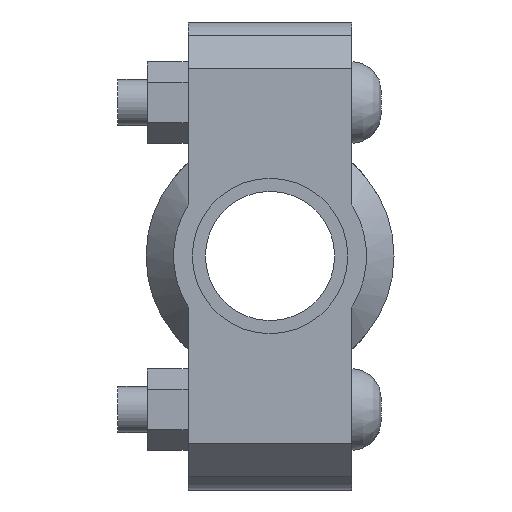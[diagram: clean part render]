
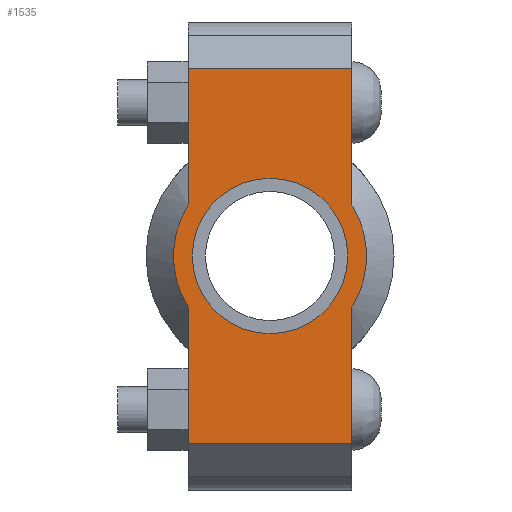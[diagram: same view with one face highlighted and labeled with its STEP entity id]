
A CAD part, left-side view. The second image highlights one B-rep face of the part: STEP entity #1535.
In plain terms, the highlighted planar face has unit normal (-1, 0, 0) as drawn and (0, 0, 1) by its records, which use the part's own axes.
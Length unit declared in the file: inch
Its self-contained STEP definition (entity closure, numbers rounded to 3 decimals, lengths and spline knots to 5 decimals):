
#146=LINE('',#2637,#241);
#161=LINE('',#2696,#256);
#169=LINE('',#2726,#264);
#171=LINE('',#2729,#266);
#172=LINE('',#2734,#267);
#173=LINE('',#2735,#268);
#241=VECTOR('',#2131,0.3937);
#256=VECTOR('',#2166,0.3937);
#264=VECTOR('',#2186,0.3937);
#266=VECTOR('',#2190,0.3937);
#267=VECTOR('',#2195,0.3937);
#268=VECTOR('',#2196,0.3937);
#328=FACE_BOUND('',#487,.T.);
#388=FACE_OUTER_BOUND('',#486,.T.);
#486=EDGE_LOOP('',(#1230,#1231,#1232,#1233,#1234,#1235,#1236,#1237));
#487=EDGE_LOOP('',(#1238));
#592=CIRCLE('',#1798,1.031);
#593=CIRCLE('',#1799,1.031);
#594=CIRCLE('',#1800,0.83);
#701=VERTEX_POINT('',#2634);
#702=VERTEX_POINT('',#2636);
#723=VERTEX_POINT('',#2691);
#724=VERTEX_POINT('',#2695);
#733=VERTEX_POINT('',#2721);
#734=VERTEX_POINT('',#2725);
#735=VERTEX_POINT('',#2731);
#736=VERTEX_POINT('',#2733);
#737=VERTEX_POINT('',#2737);
#871=EDGE_CURVE('',#702,#701,#146,.T.);
#896=EDGE_CURVE('',#724,#723,#161,.T.);
#909=EDGE_CURVE('',#734,#733,#169,.T.);
#911=EDGE_CURVE('',#734,#701,#171,.T.);
#912=EDGE_CURVE('',#733,#735,#592,.T.);
#913=EDGE_CURVE('',#735,#736,#172,.T.);
#914=EDGE_CURVE('',#724,#736,#173,.T.);
#915=EDGE_CURVE('',#723,#702,#593,.T.);
#916=EDGE_CURVE('',#737,#737,#594,.T.);
#1230=ORIENTED_EDGE('',*,*,#911,.F.);
#1231=ORIENTED_EDGE('',*,*,#909,.T.);
#1232=ORIENTED_EDGE('',*,*,#912,.T.);
#1233=ORIENTED_EDGE('',*,*,#913,.T.);
#1234=ORIENTED_EDGE('',*,*,#914,.F.);
#1235=ORIENTED_EDGE('',*,*,#896,.T.);
#1236=ORIENTED_EDGE('',*,*,#915,.T.);
#1237=ORIENTED_EDGE('',*,*,#871,.T.);
#1238=ORIENTED_EDGE('',*,*,#916,.T.);
#1387=PLANE('',#1797);
#1535=ADVANCED_FACE('',(#388,#328),#1387,.T.);
#1797=AXIS2_PLACEMENT_3D('',#2730,#2191,#2192);
#1798=AXIS2_PLACEMENT_3D('',#2732,#2193,#2194);
#1799=AXIS2_PLACEMENT_3D('',#2736,#2197,#2198);
#1800=AXIS2_PLACEMENT_3D('',#2738,#2199,#2200);
#2131=DIRECTION('',(1.,0.,0.));
#2166=DIRECTION('',(1.,0.,0.));
#2186=DIRECTION('',(-1.,0.,0.));
#2190=DIRECTION('',(0.,-1.,0.));
#2191=DIRECTION('center_axis',(0.,0.,1.));
#2192=DIRECTION('ref_axis',(-1.,0.,0.));
#2193=DIRECTION('center_axis',(0.,0.,1.));
#2194=DIRECTION('ref_axis',(1.,0.,0.));
#2195=DIRECTION('',(-1.,0.,0.));
#2196=DIRECTION('',(0.,1.,0.));
#2197=DIRECTION('center_axis',(0.,0.,1.));
#2198=DIRECTION('ref_axis',(1.,0.,0.));
#2199=DIRECTION('center_axis',(0.,0.,-1.));
#2200=DIRECTION('ref_axis',(1.,0.,0.));
#2634=CARTESIAN_POINT('',(2.,-0.875,0.94));
#2636=CARTESIAN_POINT('',(0.54529,-0.875,0.94));
#2637=CARTESIAN_POINT('',(-2.5,-0.875,0.94));
#2691=CARTESIAN_POINT('',(-0.54529,-0.875,0.94));
#2695=CARTESIAN_POINT('',(-2.,-0.875,0.94));
#2696=CARTESIAN_POINT('',(-2.5,-0.875,0.94));
#2721=CARTESIAN_POINT('',(0.54529,0.875,0.94));
#2725=CARTESIAN_POINT('',(2.,0.875,0.94));
#2726=CARTESIAN_POINT('',(2.5,0.875,0.94));
#2729=CARTESIAN_POINT('',(2.,-0.4375,0.94));
#2730=CARTESIAN_POINT('Origin',(0.,0.,
0.94));
#2731=CARTESIAN_POINT('',(-0.54529,0.875,0.94));
#2732=CARTESIAN_POINT('Origin',(0.,0.,0.94));
#2733=CARTESIAN_POINT('',(-2.,0.875,0.94));
#2734=CARTESIAN_POINT('',(2.5,0.875,0.94));
#2735=CARTESIAN_POINT('',(-2.,0.4375,0.94));
#2736=CARTESIAN_POINT('Origin',(0.,0.,0.94));
#2737=CARTESIAN_POINT('',(-0.83,0.,0.94));
#2738=CARTESIAN_POINT('Origin',(0.,0.,0.94));
